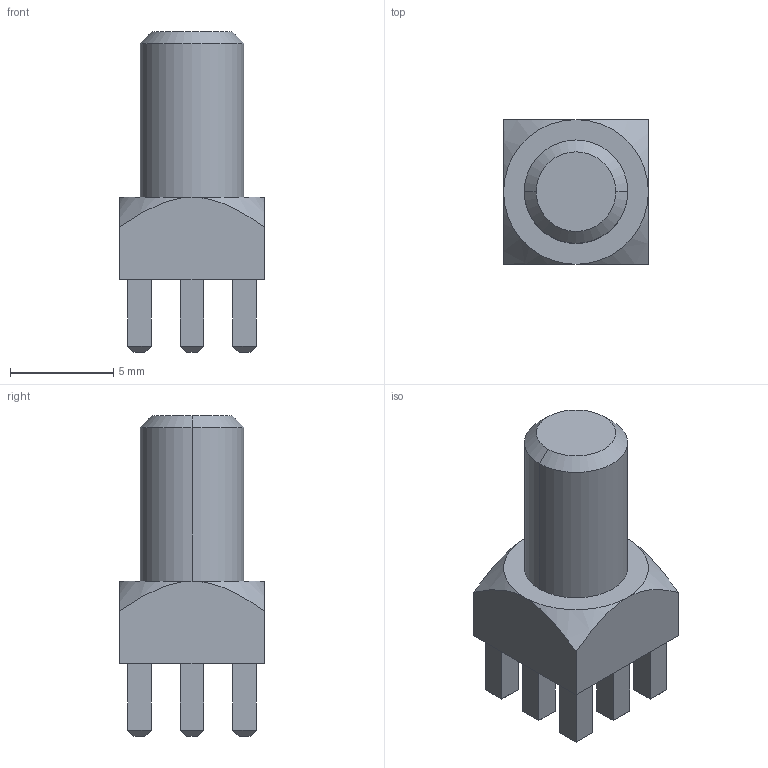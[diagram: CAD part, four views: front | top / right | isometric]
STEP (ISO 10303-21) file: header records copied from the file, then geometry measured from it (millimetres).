
FILE_DESCRIPTION (( 'STEP AP214' ), '1' );
FILE_NAME ('7461001.STEP', '2023-04-24T17:09:17', ( '' ), ( '' ), 'SwSTEP 2.0', 'SolidWorks 2022', '' );
FILE_SCHEMA (( 'AUTOMOTIVE_DESIGN' ));
Length unit declared in the file: millimetre
Products named in the file (1): 7461001
Bounding box: 7 x 7 x 15.5 mm (x, y, z)
Volume: 384.8 mm3; surface area: 453.7 mm2
Topology: 1 solids, 1 shells, 96 faces, 210 edges, 126 vertices
Faces by surface type: plane 88, cone 6, cylinder 2
Entity records: 2602 total; most frequent: CARTESIAN_POINT 489, ORIENTED_EDGE 420, DIRECTION 406, EDGE_CURVE 210, VECTOR 192, LINE 192, VERTEX_POINT 126, AXIS2_PLACEMENT_3D 107
